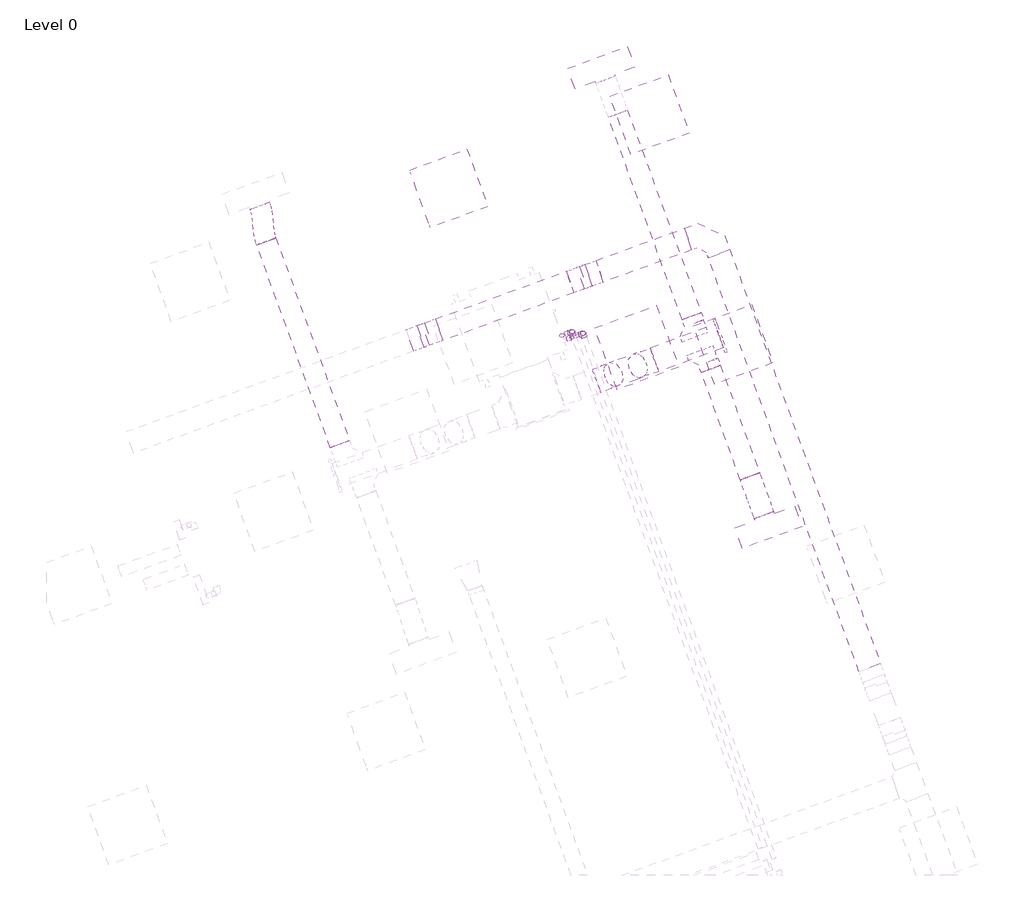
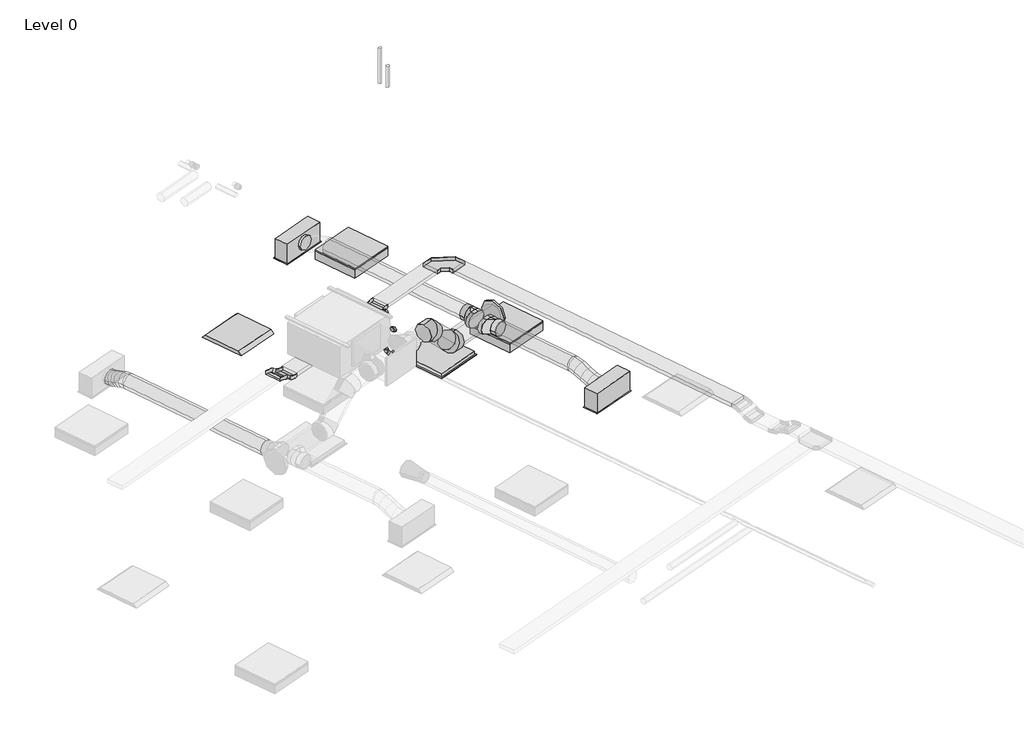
# One storey, part 33 of 34: 7 duct segments, 6 pipe fittings, 6 pipe segments, 5 cable carrier fittings, 5 cable carrier segments, 5 duct fittings, 3 air terminals, 3 light fixtures.
"""IFC4 building model written with IfcOpenShell, lengths in millimetres."""

from ifc_helpers import new_model, si_unit, point, frame, frame_2d, origin, place, context, project, spatial, polyline, circle_curve, ellipse_curve, trimmed, segment, composite_curve, outline, extrude, transform, mapped, element, save
from ifc_brep_helpers import plane_surface, cylinder_surface, advanced_brep
from components import return_grille_rectangular_hosted_standard_7b12617c, supply_diffuser_with_plenum_linear_slot_hosted_2b730595, cable_tray_horizontal_bend_standard_fd552271, cable_tray_vertical_inside_bend_standard_9a66f55b, cable_tray_vertical_outside_bend_standard_4df2047e, dw144_round_blank_end_standard_e3d0b58b, dw144_round_segmented_bend_slip_joint_standard_636bd9c1, dw144_round_shoe_branch_slip_joint1_standard_2_15a2edd8, light_fixture_b730b5ca, troffer_light_2x2_parabolic_2_x2_2_lamp_120v_6a063ff3, elbow_threaded_gmi_standard_b4aa7741, socket_reducing_threaded_gmi_standard_0a4076b8

model = new_model("IFC4")

# Units and contexts
model_context = context("Model", 3, world=origin())
ifc_project = project(units=[si_unit("LENGTHUNIT", "METRE", prefix="MILLI")], contexts=[model_context])

# Site, building, storey
site = spatial("IfcSite", under=ifc_project)
building = spatial("IfcBuilding", under=site)
storey = spatial("IfcBuildingStorey", under=building, Name="Level 0", Elevation=0.0)

# Air terminals
placement = place(None, origin())
return_grille_rectangular_hosted_standard_shape = return_grille_rectangular_hosted_standard_7b12617c(model_context)
element("IfcAirTerminal", 1, ObjectType="Return Grille - Rectangular - Hosted : Standard", at=placement, inside=storey, context=model_context, shape_type="MappedRepresentation", body=[
    mapped(return_grille_rectangular_hosted_standard_shape, transform((59670.7999959, 22099.2481143, 2800.0), x_axis=(0.939692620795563, 0.34202014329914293, 0.0), y_axis=(0.34202014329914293, -0.939692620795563, 0.0), z_axis=(0.0, 0.0, -1.0))),
])
supply_diffuser_with_plenum_linear_slot_hosted_shape = supply_diffuser_with_plenum_linear_slot_hosted_2b730595(model_context)
element("IfcAirTerminal", 2, ObjectType="Supply Diffuser with Plenum - Linear Slot - Hosted : 24\" x 8\"-200 In Inlet  4-Slot", at=placement, inside=storey, context=model_context, shape_type="MappedRepresentation", body=[
    mapped(supply_diffuser_with_plenum_linear_slot_hosted_shape, transform((59322.1555846, 24845.631912, 2800.0), x_axis=(-0.9396926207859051, -0.3420201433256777, 0.0), y_axis=(-0.3420201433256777, 0.9396926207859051, 0.0), z_axis=(0.0, 0.0, -1.0))),
])
element("IfcAirTerminal", 3, ObjectType="Supply Diffuser with Plenum - Linear Slot - Hosted : 24\" x 8\"-200 In Inlet  4-Slot", at=placement, inside=storey, context=model_context, shape_type="MappedRepresentation", body=[
    mapped(supply_diffuser_with_plenum_linear_slot_hosted_shape, transform((60963.8522726, 20335.1073322, 2800.0), x_axis=(0.939692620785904, 0.342020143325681, 0.0), y_axis=(0.342020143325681, -0.939692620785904, 0.0), z_axis=(0.0, 0.0, -1.0))),
])

# Cable carrier fittings
cable_tray_horizontal_bend_standard_shape = cable_tray_horizontal_bend_standard_fd552271(model_context)
element("IfcCableCarrierFitting", 4, ObjectType="Cable Tray Horizontal Bend : Standard", at=placement, inside=storey, context=model_context, shape_type="MappedRepresentation", body=[
    mapped(cable_tray_horizontal_bend_standard_shape, transform((60397.5181523, 23244.3261172, 3248.9627355), x_axis=(-0.3420201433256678, 0.9396926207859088, 0.0), y_axis=(-0.9396926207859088, -0.3420201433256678, 0.0), z_axis=(0.0, 0.0, 1.0))),
])
cable_tray_vertical_inside_bend_standard_shape = cable_tray_vertical_inside_bend_standard_9a66f55b(model_context)
element("IfcCableCarrierFitting", 5, ObjectType="Cable Tray Vertical Inside Bend : Standard", at=placement, inside=storey, context=model_context, shape_type="MappedRepresentation", body=[
    mapped(cable_tray_vertical_inside_bend_standard_shape, transform((59079.7468169, 22764.6965755, 3148.9627355), x_axis=(0.9396926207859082, 0.34202014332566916, 0.0), y_axis=(0.0, 0.0, 1.0), z_axis=(0.34202014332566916, -0.9396926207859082, 0.0))),
])
element("IfcCableCarrierFitting", 6, ObjectType="Cable Tray Vertical Inside Bend : Standard", at=placement, inside=storey, context=model_context, shape_type="MappedRepresentation", body=[
    mapped(cable_tray_vertical_inside_bend_standard_shape, transform((57668.2710843, 22250.9614225, 3148.9627355), x_axis=(0.8137976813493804, 0.2961981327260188, -0.4999999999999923), y_axis=(0.46984631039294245, 0.1710100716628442, 0.8660254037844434), z_axis=(0.34202014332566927, -0.9396926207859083, 0.0))),
])
cable_tray_vertical_outside_bend_standard_shape = cable_tray_vertical_outside_bend_standard_4df2047e(model_context)
element("IfcCableCarrierFitting", 7, ObjectType="Cable Tray Vertical Outside Bend : Standard", at=placement, inside=storey, context=model_context, shape_type="MappedRepresentation", body=[
    mapped(cable_tray_vertical_outside_bend_standard_shape, transform((59242.5063531, 22823.9362021, 3248.9627355), x_axis=(-0.939692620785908, -0.34202014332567, 0.0), y_axis=(0.0, 0.0, -1.0000000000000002), z_axis=(0.34202014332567, -0.939692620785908, 0.0))),
])
element("IfcCableCarrierFitting", 8, ObjectType="Cable Tray Vertical Outside Bend : Standard", at=placement, inside=storey, context=model_context, shape_type="MappedRepresentation", body=[
    mapped(cable_tray_vertical_outside_bend_standard_shape, transform((57505.5115481, 22191.721796, 3248.9627355), x_axis=(-0.8137976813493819, -0.2961981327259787, 0.5000000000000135), y_axis=(-0.46984631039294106, -0.17101007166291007, -0.866025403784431), z_axis=(0.34202014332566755, -0.9396926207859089, 0.0))),
])

# Cable carrier segments
element("IfcCableCarrierSegment", 9, ObjectType="Perforated Cable Tray", at=placement, inside=storey, context=model_context, shape_type="SweptSolid", body=[
    extrude(outline(polyline([(62063.4626623, 18996.1091889), (61852.0318226, 18919.1546567), (60373.0325165, 22982.6718536), (60584.4633562, 23059.6263859), (62063.4626623, 18996.1091889)])), frame((0.0, 0.0, 3223.9627355), z_axis=(0.0, 0.0, 1.0), x_axis=(1.0, 0.0, 0.0)), (0.0, 0.0, 1.0), 50.0),
])
element("IfcCableCarrierSegment", 10, ObjectType="Perforated Cable Tray", at=placement, inside=storey, context=model_context, shape_type="SweptSolid", body=[
    extrude(outline(polyline([(60135.8638887, 23268.811753), (60212.818421, 23057.3809133), (59343.931089, 22741.1317875), (59266.9765567, 22952.5626272), (60135.8638887, 23268.811753)])), frame((0.0, 0.0, 3223.9627355), z_axis=(0.0, 0.0, 1.0), x_axis=(1.0, 0.0, 0.0)), (0.0, 0.0, 1.0), 50.0),
])
element("IfcCableCarrierSegment", 11, ObjectType="Perforated Cable Tray", at=placement, inside=storey, context=model_context, shape_type="SweptSolid", body=[
    extrude(outline(polyline([(0.0, -225.0), (0.0, 0.0), (66.0254038, 0.0), (66.0254037, -225.0), (0.0, -225.0)])), frame((59238.2156691, 22702.6545214, 3193.8184513), z_axis=(-0.46984631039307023, -0.1710100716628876, 0.8660254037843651), x_axis=(-0.8137976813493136, -0.29619813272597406, -0.5000000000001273)), (0.0, 0.0, 1.0), 50.0),
])
element("IfcCableCarrierSegment", 12, ObjectType="Perforated Cable Tray", at=placement, inside=storey, context=model_context, shape_type="SweptSolid", body=[
    extrude(outline(polyline([(58978.322081, 22847.5009901), (59055.2766133, 22636.0701504), (57769.6958202, 22168.157008), (57692.7412879, 22379.5878476), (58978.322081, 22847.5009901)])), frame((0.0, 0.0, 3123.9627355), z_axis=(0.0, 0.0, 1.0), x_axis=(1.0, 0.0, 0.0)), (0.0, 0.0, 1.0), 50.0),
])
element("IfcCableCarrierSegment", 13, ObjectType="Perforated Cable Tray", at=placement, inside=storey, context=model_context, shape_type="SweptSolid", body=[
    extrude(outline(polyline([(0.0, -224.9999999), (0.0, 0.0), (66.0254038, 1e-07), (66.0254038, -224.9999999), (0.0, -224.9999999)])), frame((57640.4880848, 22121.1292383, 3160.8057494), z_axis=(0.4698463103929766, 0.17101007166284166, 0.8660254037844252), x_axis=(-0.8137976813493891, -0.29619813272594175, 0.5000000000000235)), (0.0, 0.0, 1.0), 50.0),
])

# Duct fittings
dw144_round_blank_end_standard_shape = dw144_round_blank_end_standard_e3d0b58b(model_context)
element("IfcDuctFitting", 14, ObjectType="DW144 Round Blank End : Standard", at=placement, inside=storey, context=model_context, shape_type="MappedRepresentation", body=[
    mapped(dw144_round_blank_end_standard_shape, transform((60480.1698786, 22212.391139, 3072.2088531), x_axis=(0.9396926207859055, 0.3420201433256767, 0.0), y_axis=(-0.3420201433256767, 0.9396926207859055, 0.0), z_axis=(0.0, 0.0, 1.0))),
])
dw144_round_segmented_bend_slip_joint_standard_shape = dw144_round_segmented_bend_slip_joint_standard_636bd9c1(model_context)
element("IfcDuctFitting", 15, ObjectType="DW144 Round Segmented Bend - Slip Joint : Standard", at=placement, inside=storey, context=model_context, shape_type="MappedRepresentation", body=[
    mapped(dw144_round_segmented_bend_slip_joint_standard_shape, transform((59747.3782824, 21945.6768101, 3072.2088531), x_axis=(0.6644630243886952, 0.24184476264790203, -0.7071067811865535), y_axis=(0.6644630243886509, 0.2418447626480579, 0.7071067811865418), z_axis=(0.3420201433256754, -0.939692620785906, 0.0))),
])
element("IfcDuctFitting", 16, ObjectType="DW144 Round Segmented Bend - Slip Joint : Standard", at=placement, inside=storey, context=model_context, shape_type="MappedRepresentation", body=[
    mapped(dw144_round_segmented_bend_slip_joint_standard_shape, transform((59373.9762464, 21809.7695836, 3469.575), x_axis=(0.9396926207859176, 0.3420201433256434, 0.0), y_axis=(0.0, 0.0, -1.0), z_axis=(-0.3420201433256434, 0.9396926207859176, 0.0))),
])
dw144_round_shoe_branch_slip_joint1_standard_2_shape = dw144_round_shoe_branch_slip_joint1_standard_2_15a2edd8(model_context)
element("IfcDuctFitting", 17, ObjectType="DW144 Round Shoe Branch - Slip Joint1 : Standard 2", at=placement, inside=storey, context=model_context, shape_type="MappedRepresentation", body=[
    mapped(dw144_round_shoe_branch_slip_joint1_standard_2_shape, transform((60261.1722773, 22265.7047523, 3072.2088531), x_axis=(-0.3420201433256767, 0.9396926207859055, 0.0), y_axis=(0.9396926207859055, 0.3420201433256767, 0.0), z_axis=(0.0, 0.0, -1.0))),
])
element("IfcDuctFitting", 18, ObjectType="DW144 Round Shoe Branch - Slip Joint1 : Standard 2", at=placement, inside=storey, context=model_context, shape_type="MappedRepresentation", body=[
    mapped(dw144_round_shoe_branch_slip_joint1_standard_2_shape, transform((60346.6773131, 22030.7815971, 3072.2088531), x_axis=(0.3420201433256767, -0.9396926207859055, 0.0), y_axis=(0.9396926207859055, 0.3420201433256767, 0.0), z_axis=(0.0, 0.0, 1.0))),
])

# Duct segments
element("IfcDuctSegment", 19, ObjectType="DW144 Segmented Bend / Shoe Branch", at=placement, inside=storey, context=model_context, shape_type="SweptSolid", body=[
    extrude(outline(composite_curve([segment(trimmed(circle_curve(frame_2d((0.0, -125.0)), 125.0), [point((-125.0, -125.0))], [point((0.0, 0.0))], False, "CARTESIAN"), True, "CONTINUOUS"), segment(trimmed(circle_curve(frame_2d((0.0, -125.0)), 125.0), [point((0.0, 0.0))], [point((125.0, -125.0))], False, "CARTESIAN"), True, "CONTINUOUS"), segment(trimmed(circle_curve(frame_2d((0.0, -125.0)), 125.0), [point((125.0, -125.0))], [point((0.0, -250.0))], False, "CARTESIAN"), True, "CONTINUOUS"), segment(trimmed(circle_curve(frame_2d((0.0, -125.0)), 125.0), [point((0.0, -250.0))], [point((-125.0, -125.0))], False, "CARTESIAN"), True, "CONTINUOUS")], self_intersect=False)), frame((59844.6866394, 21981.0941556, 2947.2088531), z_axis=(0.9396926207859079, 0.3420201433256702, 0.0), x_axis=(0.3420201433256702, -0.9396926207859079, 0.0)), (0.0, 0.0, 1.0), 676.267138),
])
element("IfcDuctSegment", 20, ObjectType="DW144 Segmented Bend / Shoe Branch", at=placement, inside=storey, context=model_context, shape_type="SweptSolid", body=[
    extrude(outline(composite_curve([segment(trimmed(circle_curve(frame_2d((0.0, 100.0)), 100.0), [point((100.0, 100.0))], [point((0.0, 0.0))], False, "CARTESIAN"), True, "CONTINUOUS"), segment(trimmed(circle_curve(frame_2d((0.0, 100.0)), 100.0), [point((0.0, 0.0))], [point((-100.0, 100.0))], False, "CARTESIAN"), True, "CONTINUOUS"), segment(trimmed(circle_curve(frame_2d((0.0, 100.0)), 100.0), [point((-100.0, 100.0))], [point((0.0, 200.0))], False, "CARTESIAN"), True, "CONTINUOUS"), segment(trimmed(circle_curve(frame_2d((0.0, 100.0)), 100.0), [point((0.0, 200.0))], [point((100.0, 100.0))], False, "CARTESIAN"), True, "CONTINUOUS")], self_intersect=False)), frame((60209.8692558, 22406.6586454, 3172.2088531), z_axis=(-0.3420201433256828, 0.9396926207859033, 0.0), x_axis=(0.9396926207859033, 0.3420201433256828, 0.0)), (0.0, 0.0, 1.0), 2117.1993191),
])
element("IfcDuctSegment", 21, ObjectType="DW144 Segmented Bend / Shoe Branch", at=placement, inside=storey, context=model_context, shape_type="SweptSolid", body=[
    extrude(outline(composite_curve([segment(trimmed(circle_curve(frame_2d((0.0, -100.0)), 100.0), [point((-99.9999999, -100.0))], [point((0.0, 0.0))], False, "CARTESIAN"), True, "CONTINUOUS"), segment(trimmed(circle_curve(frame_2d((0.0, -100.0)), 100.0), [point((0.0, 0.0))], [point((100.0, -100.0))], False, "CARTESIAN"), True, "CONTINUOUS"), segment(trimmed(circle_curve(frame_2d((0.0, -100.0)), 100.0), [point((100.0, -100.0))], [point((0.0, -200.0))], False, "CARTESIAN"), True, "CONTINUOUS"), segment(trimmed(circle_curve(frame_2d((0.0, -100.0)), 100.0), [point((0.0, -200.0))], [point((-99.9999999, -100.0))], False, "CARTESIAN"), True, "CONTINUOUS")], self_intersect=False)), frame((60782.0007844, 20834.7401896, 2972.2088531), z_axis=(-0.3420201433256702, 0.9396926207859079, 0.0), x_axis=(0.9396926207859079, 0.3420201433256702, 0.0)), (0.0, 0.0, 1.0), 1122.8006809),
])
element("IfcDuctSegment", 22, ObjectType="DW144 Segmented Bend / Shoe Branch", at=placement, inside=storey, context=model_context, shape_type="SweptSolid", body=[
    extrude(outline(composite_curve([segment(trimmed(circle_curve(frame_2d((0.0, -100.0)), 100.0), [point((-100.0, -100.0))], [point((0.0, 0.0))], False, "CARTESIAN"), True, "CONTINUOUS"), segment(trimmed(circle_curve(frame_2d((0.0, -100.0)), 100.0), [point((0.0, 0.0))], [point((99.9999999, -100.0))], False, "CARTESIAN"), True, "CONTINUOUS"), segment(trimmed(circle_curve(frame_2d((0.0, -100.0)), 100.0), [point((99.9999999, -100.0))], [point((0.0, -200.0))], False, "CARTESIAN"), True, "CONTINUOUS"), segment(trimmed(circle_curve(frame_2d((0.0, -100.0)), 100.0), [point((0.0, -200.0))], [point((-100.0, -100.0))], False, "CARTESIAN"), True, "CONTINUOUS")], self_intersect=False)), frame((56758.4236669, 21150.4351859, 2972.2088531), z_axis=(-0.3420201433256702, 0.9396926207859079, 0.0), x_axis=(0.9396926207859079, 0.3420201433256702, 0.0)), (0.0, 0.0, 1.0), 2117.1993191),
])
element("IfcDuctSegment", 23, ObjectType="DW144 Segmented Bend / Shoe Branch", at=placement, inside=storey, context=model_context, shape_type="SweptSolid", body=[
    extrude(outline(composite_curve([segment(trimmed(circle_curve(frame_2d((0.0, -125.0)), 125.0), [point((57.2076922, -236.1408113))], [point((-111.1408114, -182.2076922))], False, "CARTESIAN"), True, "CONTINUOUS"), segment(trimmed(circle_curve(frame_2d((0.0, -125.0)), 125.0), [point((-111.1408114, -182.2076922))], [point((-57.2076923, -13.8591886))], False, "CARTESIAN"), True, "CONTINUOUS"), segment(trimmed(circle_curve(frame_2d((0.0, -125.0)), 125.0), [point((-57.2076923, -13.8591886))], [point((111.1408113, -67.7923077))], False, "CARTESIAN"), True, "CONTINUOUS"), segment(trimmed(circle_curve(frame_2d((0.0, -125.0)), 125.0), [point((111.1408113, -67.7923077))], [point((57.2076922, -236.1408113))], False, "CARTESIAN"), True, "CONTINUOUS")], self_intersect=False)), frame((59678.5708833, 22038.9065459, 3185.884105), z_axis=(-0.6644630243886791, -0.2418447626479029, 0.7071067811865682), x_axis=(0.7473211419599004, -0.21503058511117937, 0.6287073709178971)), (0.0, 0.0, 1.0), 354.8538129),
])
element("IfcDuctSegment", 24, ObjectType="Flex - Round", at=placement, inside=storey, context=model_context, shape_type="AdvancedBrep", body=[
    advanced_brep(
    [(60875.9700465, 20868.9422039, 3072.2088531), (60782.0007844, 20834.7401896, 2972.2088531), (60688.0315224, 20800.5381753, 3072.2088531), (60782.0007844, 20834.7401896, 3172.2088531), (60882.0013398, 20852.3713618, 3072.2088531), (60784.375947, 20828.2144842, 2972.2088531), (60694.0628156, 20783.9673332, 3072.2088531), (60791.6882085, 20808.1242108, 3172.2088531), (61014.3849765, 20488.6503094, 2954.4), (60920.4157144, 20454.4482951, 3054.4), (60826.4464523, 20420.2462807, 2954.4), (60920.4157144, 20454.4482951, 2854.4), (60911.1124161, 20772.389337, 3053.8012198), (60807.0114178, 20766.0240391, 2957.8959008), (60723.173892, 20703.9853083, 3053.8012198), (60827.2748902, 20710.3506062, 3149.7065388), (60945.1775115, 20678.7962567, 3013.3044266), (60838.3259973, 20679.987939, 2920.6689376), (60757.2389873, 20610.392228, 3013.3044266), (60864.0905015, 20609.2005456, 3105.9399155), (60979.2426069, 20585.2031763, 2972.8076333), (60875.1416086, 20578.8378784, 2876.9023143), (60791.3040827, 20516.7991477, 2972.8076333), (60895.405081, 20523.1644455, 3068.7129523), (61008.3536832, 20505.2211515, 2954.4), (60910.7282903, 20481.0642739, 2854.4), (60820.415159, 20436.8171228, 2954.4), (60918.0405519, 20460.9740005, 3054.4)],
    [
        (0, 1, circle_curve(frame((60782.0007844, 20834.7401896, 3072.2088531), z_axis=(-0.34202014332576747, 0.9396926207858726, 0.0), x_axis=(0.9396926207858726, 0.34202014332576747, 0.0)), 100.0)),
        (1, 2, circle_curve(frame((60782.0007844, 20834.7401896, 3072.2088531), z_axis=(-0.34202014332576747, 0.9396926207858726, 0.0), x_axis=(0.9396926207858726, 0.34202014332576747, 0.0)), 100.0)),
        (2, 3, circle_curve(frame((60782.0007844, 20834.7401896, 3072.2088531), z_axis=(-0.34202014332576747, 0.9396926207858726, 0.0), x_axis=(0.9396926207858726, 0.34202014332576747, 0.0)), 100.0)),
        (3, 0, circle_curve(frame((60782.0007844, 20834.7401896, 3072.2088531), z_axis=(-0.34202014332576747, 0.9396926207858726, 0.0), x_axis=(0.9396926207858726, 0.34202014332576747, 0.0)), 100.0)),
        (0, 4),
        (4, 5, ellipse_curve(frame((60788.0320777, 20818.1693475, 3072.2088531), z_axis=(-0.3400825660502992, 0.9343691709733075, 0.10629252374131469), x_axis=(-0.03635418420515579, 0.09988230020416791, -0.9943349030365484)), 100.5697373, 100.0)),
        (5, 1),
        (5, 6, ellipse_curve(frame((60788.0320777, 20818.1693475, 3072.2088531), z_axis=(-0.3400825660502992, 0.9343691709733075, 0.10629252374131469), x_axis=(-0.03635418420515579, 0.09988230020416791, -0.9943349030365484)), 100.5697373, 100.0)),
        (6, 2),
        (6, 7, ellipse_curve(frame((60788.0320777, 20818.1693475, 3072.2088531), z_axis=(-0.3400825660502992, 0.9343691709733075, 0.10629252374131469), x_axis=(-0.03635418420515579, 0.09988230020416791, -0.9943349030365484)), 100.5697373, 100.0)),
        (7, 3),
        (7, 4, ellipse_curve(frame((60788.0320777, 20818.1693475, 3072.2088531), z_axis=(-0.3400825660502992, 0.9343691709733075, 0.10629252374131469), x_axis=(-0.03635418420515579, 0.09988230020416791, -0.9943349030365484)), 100.5697373, 100.0)),
        (8, 9, circle_curve(frame((60920.4157144, 20454.4482951, 2954.4), z_axis=(0.34202014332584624, -0.9396926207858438, 0.0), x_axis=(0.9396926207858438, 0.34202014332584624, 0.0)), 100.0)),
        (9, 10, circle_curve(frame((60920.4157144, 20454.4482951, 2954.4), z_axis=(0.34202014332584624, -0.9396926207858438, 0.0), x_axis=(0.9396926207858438, 0.34202014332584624, 0.0)), 100.0)),
        (10, 11, circle_curve(frame((60920.4157144, 20454.4482951, 2954.4), z_axis=(0.34202014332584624, -0.9396926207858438, 0.0), x_axis=(0.9396926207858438, 0.34202014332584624, 0.0)), 100.0)),
        (11, 8, circle_curve(frame((60920.4157144, 20454.4482951, 2954.4), z_axis=(0.34202014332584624, -0.9396926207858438, 0.0), x_axis=(0.9396926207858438, 0.34202014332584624, 0.0)), 100.0)),
        (4, 12),
        (12, 13, ellipse_curve(frame((60817.143154, 20738.1873227, 3053.8012198), z_axis=(-0.3267864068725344, 0.8978382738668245, 0.295122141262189), x_axis=(-0.10093771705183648, 0.2773240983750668, -0.9554595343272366)), 100.3761181, 100.0)),
        (13, 5),
        (13, 14, ellipse_curve(frame((60817.143154, 20738.1873227, 3053.8012198), z_axis=(-0.3267864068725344, 0.8978382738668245, 0.295122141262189), x_axis=(-0.10093771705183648, 0.2773240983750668, -0.9554595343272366)), 100.3761181, 100.0)),
        (14, 6),
        (14, 15, ellipse_curve(frame((60817.143154, 20738.1873227, 3053.8012198), z_axis=(-0.3267864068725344, 0.8978382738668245, 0.295122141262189), x_axis=(-0.10093771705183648, 0.2773240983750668, -0.9554595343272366)), 100.3761181, 100.0)),
        (15, 7),
        (15, 12, ellipse_curve(frame((60817.143154, 20738.1873227, 3053.8012198), z_axis=(-0.3267864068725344, 0.8978382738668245, 0.295122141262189), x_axis=(-0.10093771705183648, 0.2773240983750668, -0.9554595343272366)), 100.3761181, 100.0)),
        (12, 16),
        (16, 17, circle_curve(frame((60851.2082494, 20644.5942423, 3013.3044266), z_axis=(-0.31683203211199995, 0.8704888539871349, 0.3766518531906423), x_axis=(0.9396926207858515, 0.3420201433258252, 0.0)), 100.0)),
        (17, 13),
        (17, 18, circle_curve(frame((60851.2082494, 20644.5942423, 3013.3044266), z_axis=(-0.31683203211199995, 0.8704888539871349, 0.3766518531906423), x_axis=(0.9396926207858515, 0.3420201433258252, 0.0)), 100.0)),
        (18, 14),
        (18, 19, circle_curve(frame((60851.2082494, 20644.5942423, 3013.3044266), z_axis=(-0.31683203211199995, 0.8704888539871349, 0.3766518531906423), x_axis=(0.9396926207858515, 0.3420201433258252, 0.0)), 100.0)),
        (19, 15),
        (19, 16, circle_curve(frame((60851.2082494, 20644.5942423, 3013.3044266), z_axis=(-0.31683203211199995, 0.8704888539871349, 0.3766518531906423), x_axis=(0.9396926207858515, 0.3420201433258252, 0.0)), 100.0)),
        (16, 20),
        (20, 21, ellipse_curve(frame((60885.2733448, 20551.001162, 2972.8076333), z_axis=(-0.32678640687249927, 0.8978382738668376, 0.29512214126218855), x_axis=(0.10093771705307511, -0.2773240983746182, 0.9554595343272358)), 100.3761181, 100.0)),
        (21, 17),
        (21, 22, ellipse_curve(frame((60885.2733448, 20551.001162, 2972.8076333), z_axis=(-0.32678640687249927, 0.8978382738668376, 0.29512214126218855), x_axis=(0.10093771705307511, -0.2773240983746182, 0.9554595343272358)), 100.3761181, 100.0)),
        (22, 18),
        (22, 23, ellipse_curve(frame((60885.2733448, 20551.001162, 2972.8076333), z_axis=(-0.32678640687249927, 0.8978382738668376, 0.29512214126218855), x_axis=(0.10093771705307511, -0.2773240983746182, 0.9554595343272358)), 100.3761181, 100.0)),
        (23, 19),
        (23, 20, ellipse_curve(frame((60885.2733448, 20551.001162, 2972.8076333), z_axis=(-0.32678640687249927, 0.8978382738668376, 0.29512214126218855), x_axis=(0.10093771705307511, -0.2773240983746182, 0.9554595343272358)), 100.3761181, 100.0)),
        (20, 24),
        (24, 25, ellipse_curve(frame((60914.3844211, 20471.0191372, 2954.4), z_axis=(-0.34008256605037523, 0.9343691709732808, 0.10629252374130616), x_axis=(0.03635418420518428, -0.09988230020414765, 0.9943349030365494)), 100.5697373, 100.0)),
        (25, 21),
        (25, 26, ellipse_curve(frame((60914.3844211, 20471.0191372, 2954.4), z_axis=(-0.34008256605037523, 0.9343691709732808, 0.10629252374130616), x_axis=(0.03635418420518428, -0.09988230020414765, 0.9943349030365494)), 100.5697373, 100.0)),
        (26, 22),
        (26, 27, ellipse_curve(frame((60914.3844211, 20471.0191372, 2954.4), z_axis=(-0.34008256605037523, 0.9343691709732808, 0.10629252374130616), x_axis=(0.03635418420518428, -0.09988230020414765, 0.9943349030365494)), 100.5697373, 100.0)),
        (27, 23),
        (27, 24, ellipse_curve(frame((60914.3844211, 20471.0191372, 2954.4), z_axis=(-0.34008256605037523, 0.9343691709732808, 0.10629252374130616), x_axis=(0.03635418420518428, -0.09988230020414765, 0.9943349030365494)), 100.5697373, 100.0)),
        (24, 8),
        (11, 25),
        (10, 26),
        (9, 27),
    ],
    [
        plane_surface(frame((60782.0007844, 20834.7401896, 2972.2088531), z_axis=(-0.3420201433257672, 0.9396926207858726, 0.0), x_axis=(0.9396926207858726, 0.3420201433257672, 0.0))),
        cylinder_surface(frame((60782.0007844, 20834.7401896, 3072.2088531), z_axis=(-0.34202014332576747, 0.9396926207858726, 0.0), x_axis=(0.9396926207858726, 0.34202014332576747, 0.0)), 100.0),
        plane_surface(frame((60920.4157144, 20454.4482951, 2854.4), z_axis=(0.3420201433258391, -0.9396926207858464, 0.0), x_axis=(0.9396926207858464, 0.3420201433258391, 0.0))),
        cylinder_surface(frame((60788.0320777, 20818.1693475, 3072.2088531), z_axis=(-0.33429178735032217, 0.9184591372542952, 0.21138073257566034), x_axis=(0.9396926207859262, 0.34202014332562, 0.0)), 100.0),
        cylinder_surface(frame((60817.143154, 20738.1873227, 3053.8012198), z_axis=(-0.31683203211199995, 0.8704888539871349, 0.3766518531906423), x_axis=(0.9396926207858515, 0.3420201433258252, 0.0)), 100.0),
        cylinder_surface(frame((60851.2082494, 20644.5942423, 3013.3044266), z_axis=(-0.3168320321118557, 0.870488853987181, 0.37665185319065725), x_axis=(0.9396926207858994, 0.3420201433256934, 0.0)), 100.0),
        cylinder_surface(frame((60885.2733448, 20551.001162, 2972.8076333), z_axis=(-0.33429178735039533, 0.9184591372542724, 0.21138073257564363), x_axis=(0.9396926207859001, 0.3420201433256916, 0.0)), 100.0),
        cylinder_surface(frame((60914.3844211, 20471.0191372, 2954.4), z_axis=(-0.34202014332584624, 0.9396926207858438, 0.0), x_axis=(0.9396926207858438, 0.34202014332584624, 0.0)), 100.0),
    ],
    [
        (0, [[1, 2, 3, 4]]),
        (1, [[-1, 5, 6, 7]]),
        (1, [[-2, -7, 8, 9]]),
        (1, [[-3, -9, 10, 11]]),
        (1, [[-4, -11, 12, -5]]),
        (2, [[13, 14, 15, 16]]),
        (3, [[-6, 17, 18, 19]]),
        (3, [[-8, -19, 20, 21]]),
        (3, [[-10, -21, 22, 23]]),
        (3, [[-12, -23, 24, -17]]),
        (4, [[-18, 25, 26, 27]]),
        (4, [[-20, -27, 28, 29]]),
        (4, [[-22, -29, 30, 31]]),
        (4, [[-24, -31, 32, -25]]),
        (5, [[-26, 33, 34, 35]]),
        (5, [[-28, -35, 36, 37]]),
        (5, [[-30, -37, 38, 39]]),
        (5, [[-32, -39, 40, -33]]),
        (6, [[-34, 41, 42, 43]]),
        (6, [[-36, -43, 44, 45]]),
        (6, [[-38, -45, 46, 47]]),
        (6, [[-40, -47, 48, -41]]),
        (7, [[-42, 49, -16, 50]]),
        (7, [[-44, -50, -15, 51]]),
        (7, [[-46, -51, -14, 52]]),
        (7, [[-48, -52, -13, -49]]),
    ],
),
])
element("IfcDuctSegment", 25, ObjectType="Flex - Round", at=placement, inside=storey, context=model_context, shape_type="AdvancedBrep", body=[
    advanced_brep(
    [(55940.3295902, 23105.7497485, 3072.2088531), (56034.2988523, 23139.9517628, 2972.2088531), (56128.2681143, 23174.1537771, 3072.2088531), (56034.2988523, 23139.9517628, 3172.2088531), (55932.7420836, 23126.5962516, 3072.2088531), (56032.3134808, 23145.406526, 2972.2088531), (56124.5132802, 23184.4700991, 3072.2088531), (56024.9418829, 23165.6598248, 3172.2088531), (55877.7350427, 23456.8147833, 2954.4), (55971.7043047, 23491.0167976, 3054.4), (56065.6735668, 23525.218812, 2954.4), (55971.7043047, 23491.0167976, 2854.4), (55917.2205605, 23191.1924734, 3057.7687719), (56023.6671691, 23181.3900482, 2964.1649619), (56113.6953982, 23229.4910871, 3062.1446929), (56007.2487896, 23239.2935124, 3155.7485029), (55907.0631461, 23267.3080025, 3026.0560812), (56015.8469396, 23239.9916648, 2939.7492485), (56105.1369571, 23293.6245615, 3035.4241924), (55996.3531635, 23320.9408992, 3121.7310251), (55900.8662, 23337.3439989, 2991.1846607), (56009.6499935, 23310.0276613, 2904.877828), (56098.9400109, 23363.660558, 3000.5527719), (55990.1562174, 23390.9768957, 3086.8596046), (55892.3077588, 23401.4774733, 2964.4641602), (55998.7543674, 23391.6750481, 2870.8603502), (56088.7825965, 23439.776087, 2968.8400813), (55982.3359879, 23449.5785123, 3062.4438913), (55881.4898768, 23446.4984613, 2954.4), (55981.0612741, 23465.3087357, 2854.4), (56073.2610734, 23504.3723089, 2954.4), (55973.6896762, 23485.5620345, 3054.4)],
    [
        (0, 1, circle_curve(frame((56034.2988523, 23139.9517628, 3072.2088531), z_axis=(0.3420201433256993, -0.9396926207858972, 0.0), x_axis=(-0.9396926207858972, -0.3420201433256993, 0.0)), 100.0)),
        (1, 2, circle_curve(frame((56034.2988523, 23139.9517628, 3072.2088531), z_axis=(0.3420201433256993, -0.9396926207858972, 0.0), x_axis=(-0.9396926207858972, -0.3420201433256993, 0.0)), 100.0)),
        (2, 3, circle_curve(frame((56034.2988523, 23139.9517628, 3072.2088531), z_axis=(0.3420201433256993, -0.9396926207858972, 0.0), x_axis=(-0.9396926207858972, -0.3420201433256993, 0.0)), 100.0)),
        (3, 0, circle_curve(frame((56034.2988523, 23139.9517628, 3072.2088531), z_axis=(0.3420201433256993, -0.9396926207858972, 0.0), x_axis=(-0.9396926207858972, -0.3420201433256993, 0.0)), 100.0)),
        (0, 4),
        (4, 5, ellipse_curve(frame((56028.6276819, 23155.5331754, 3072.2088531), z_axis=(0.28725807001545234, -0.951860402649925, 0.10697932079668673), x_axis=(0.4715564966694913, 0.04331948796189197, -0.8807711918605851)), 100.7349377, 100.0)),
        (5, 1),
        (5, 6, ellipse_curve(frame((56028.6276819, 23155.5331754, 3072.2088531), z_axis=(0.28725807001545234, -0.951860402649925, 0.10697932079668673), x_axis=(0.4715564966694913, 0.04331948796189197, -0.8807711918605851)), 100.7349377, 100.0)),
        (6, 2),
        (6, 7, ellipse_curve(frame((56028.6276819, 23155.5331754, 3072.2088531), z_axis=(0.28725807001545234, -0.951860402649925, 0.10697932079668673), x_axis=(0.4715564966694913, 0.04331948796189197, -0.8807711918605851)), 100.7349377, 100.0)),
        (7, 3),
        (7, 4, ellipse_curve(frame((56028.6276819, 23155.5331754, 3072.2088531), z_axis=(0.28725807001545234, -0.951860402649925, 0.10697932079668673), x_axis=(0.4715564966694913, 0.04331948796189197, -0.8807711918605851)), 100.7349377, 100.0)),
        (8, 9, circle_curve(frame((55971.7043047, 23491.0167976, 2954.4), z_axis=(-0.34202014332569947, 0.9396926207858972, 0.0), x_axis=(-0.9396926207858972, -0.34202014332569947, 0.0)), 100.0)),
        (9, 10, circle_curve(frame((55971.7043047, 23491.0167976, 2954.4), z_axis=(-0.34202014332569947, 0.9396926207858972, 0.0), x_axis=(-0.9396926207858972, -0.34202014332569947, 0.0)), 100.0)),
        (10, 11, circle_curve(frame((55971.7043047, 23491.0167976, 2954.4), z_axis=(-0.34202014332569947, 0.9396926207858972, 0.0), x_axis=(-0.9396926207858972, -0.34202014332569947, 0.0)), 100.0)),
        (11, 8, circle_curve(frame((55971.7043047, 23491.0167976, 2954.4), z_axis=(-0.34202014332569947, 0.9396926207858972, 0.0), x_axis=(-0.9396926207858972, -0.34202014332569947, 0.0)), 100.0)),
        (4, 12),
        (12, 13, ellipse_curve(frame((56015.4579794, 23210.3417803, 3059.9567324), z_axis=(0.17618862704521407, -0.9379774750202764, 0.2985897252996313), x_axis=(0.5232975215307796, -0.16766949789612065, -0.8354918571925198)), 100.5173143, 100.0)),
        (13, 5),
        (13, 14, ellipse_curve(frame((56015.4579794, 23210.3417803, 3059.9567324), z_axis=(0.17618862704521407, -0.9379774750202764, 0.2985897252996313), x_axis=(0.5232975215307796, -0.16766949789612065, -0.8354918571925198)), 100.5173143, 100.0)),
        (14, 6),
        (14, 15, ellipse_curve(frame((56015.4579794, 23210.3417803, 3059.9567324), z_axis=(0.17618862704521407, -0.9379774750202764, 0.2985897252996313), x_axis=(0.5232975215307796, -0.16766949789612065, -0.8354918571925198)), 100.5173143, 100.0)),
        (15, 7),
        (15, 12, ellipse_curve(frame((56015.4579794, 23210.3417803, 3059.9567324), z_axis=(0.17618862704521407, -0.9379774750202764, 0.2985897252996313), x_axis=(0.5232975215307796, -0.16766949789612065, -0.8354918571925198)), 100.5173143, 100.0)),
        (12, 16),
        (16, 17, ellipse_curve(frame((56006.1000516, 23280.466282, 3030.7401368), z_axis=(0.10068966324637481, -0.904990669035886, 0.41334426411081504), x_axis=(0.5429036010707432, -0.29817225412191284, -0.7850789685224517)), 100.0796062, 100.0)),
        (17, 13),
        (17, 18, ellipse_curve(frame((56006.1000516, 23280.466282, 3030.7401368), z_axis=(0.10068966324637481, -0.904990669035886, 0.41334426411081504), x_axis=(0.5429036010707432, -0.29817225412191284, -0.7850789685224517)), 100.0796062, 100.0)),
        (18, 14),
        (18, 19, ellipse_curve(frame((56006.1000516, 23280.466282, 3030.7401368), z_axis=(0.10068966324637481, -0.904990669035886, 0.41334426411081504), x_axis=(0.5429036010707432, -0.29817225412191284, -0.7850789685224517)), 100.0796062, 100.0)),
        (19, 15),
        (19, 16, ellipse_curve(frame((56006.1000516, 23280.466282, 3030.7401368), z_axis=(0.10068966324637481, -0.904990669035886, 0.41334426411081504), x_axis=(0.5429036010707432, -0.29817225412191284, -0.7850789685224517)), 100.0796062, 100.0)),
        (16, 20),
        (20, 21, ellipse_curve(frame((55999.9031055, 23350.5022785, 2995.8687163), z_axis=(0.10068966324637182, -0.9049906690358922, 0.4133442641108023), x_axis=(-0.5429036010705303, 0.2981722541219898, 0.7850789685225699)), 100.0796062, 100.0)),
        (21, 17),
        (21, 22, ellipse_curve(frame((55999.9031055, 23350.5022785, 2995.8687163), z_axis=(0.10068966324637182, -0.9049906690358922, 0.4133442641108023), x_axis=(-0.5429036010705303, 0.2981722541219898, 0.7850789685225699)), 100.0796062, 100.0)),
        (22, 18),
        (22, 23, ellipse_curve(frame((55999.9031055, 23350.5022785, 2995.8687163), z_axis=(0.10068966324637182, -0.9049906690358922, 0.4133442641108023), x_axis=(-0.5429036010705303, 0.2981722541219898, 0.7850789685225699)), 100.0796062, 100.0)),
        (23, 19),
        (23, 20, ellipse_curve(frame((55999.9031055, 23350.5022785, 2995.8687163), z_axis=(0.10068966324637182, -0.9049906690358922, 0.4133442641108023), x_axis=(-0.5429036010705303, 0.2981722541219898, 0.7850789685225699)), 100.0796062, 100.0)),
        (20, 24),
        (24, 25, ellipse_curve(frame((55990.5451776, 23420.6267802, 2966.6521207), z_axis=(0.17618862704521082, -0.9379774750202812, 0.29858972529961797), x_axis=(-0.5232975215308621, 0.16766949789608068, 0.8354918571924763)), 100.5173143, 100.0)),
        (25, 21),
        (25, 26, ellipse_curve(frame((55990.5451776, 23420.6267802, 2966.6521207), z_axis=(0.17618862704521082, -0.9379774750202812, 0.29858972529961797), x_axis=(-0.5232975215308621, 0.16766949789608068, 0.8354918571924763)), 100.5173143, 100.0)),
        (26, 22),
        (26, 27, ellipse_curve(frame((55990.5451776, 23420.6267802, 2966.6521207), z_axis=(0.17618862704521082, -0.9379774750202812, 0.29858972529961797), x_axis=(-0.5232975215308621, 0.16766949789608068, 0.8354918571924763)), 100.5173143, 100.0)),
        (27, 23),
        (27, 24, ellipse_curve(frame((55990.5451776, 23420.6267802, 2966.6521207), z_axis=(0.17618862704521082, -0.9379774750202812, 0.29858972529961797), x_axis=(-0.5232975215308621, 0.16766949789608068, 0.8354918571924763)), 100.5173143, 100.0)),
        (24, 28),
        (28, 29, ellipse_curve(frame((55977.3754751, 23475.4353851, 2954.4), z_axis=(0.28725807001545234, -0.9518604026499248, 0.10697932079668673), x_axis=(-0.47155649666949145, -0.04331948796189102, 0.880771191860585)), 100.7349377, 100.0)),
        (29, 25),
        (29, 30, ellipse_curve(frame((55977.3754751, 23475.4353851, 2954.4), z_axis=(0.28725807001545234, -0.9518604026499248, 0.10697932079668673), x_axis=(-0.47155649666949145, -0.04331948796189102, 0.880771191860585)), 100.7349377, 100.0)),
        (30, 26),
        (30, 31, ellipse_curve(frame((55977.3754751, 23475.4353851, 2954.4), z_axis=(0.28725807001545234, -0.9518604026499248, 0.10697932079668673), x_axis=(-0.47155649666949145, -0.04331948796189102, 0.880771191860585)), 100.7349377, 100.0)),
        (31, 27),
        (31, 28, ellipse_curve(frame((55977.3754751, 23475.4353851, 2954.4), z_axis=(0.28725807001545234, -0.9518604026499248, 0.10697932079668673), x_axis=(-0.47155649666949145, -0.04331948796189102, 0.880771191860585)), 100.7349377, 100.0)),
        (28, 8),
        (11, 29),
        (10, 30),
        (9, 31),
    ],
    [
        plane_surface(frame((56034.2988523, 23139.9517628, 3172.2088531), z_axis=(0.34202014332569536, -0.9396926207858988, 0.0), x_axis=(0.9396926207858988, 0.34202014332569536, 0.0))),
        cylinder_surface(frame((56034.2988523, 23139.9517628, 3072.2088531), z_axis=(0.3420201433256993, -0.9396926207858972, 0.0), x_axis=(-0.9396926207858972, -0.3420201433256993, 0.0)), 100.0),
        plane_surface(frame((55971.7043047, 23491.0167976, 3054.4), z_axis=(-0.34202014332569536, 0.9396926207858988, 0.0), x_axis=(0.9396926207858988, 0.34202014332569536, 0.0))),
        cylinder_surface(frame((56028.6276819, 23155.5331754, 3072.2088531), z_axis=(0.22830446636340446, -0.9501390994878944, 0.21239765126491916), x_axis=(-0.9716478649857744, -0.23613301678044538, -0.011900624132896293)), 100.0),
        cylinder_surface(frame((56015.4579794, 23210.3417803, 3059.9567324), z_axis=(0.12225927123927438, -0.9161612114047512, 0.3817084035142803), x_axis=(-0.988118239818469, -0.14844948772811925, -0.03981323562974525)), 100.0),
        cylinder_surface(frame((56006.1000516, 23280.466282, 3030.7401368), z_axis=(0.0789598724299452, -0.8923804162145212, 0.44432255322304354), x_axis=(-0.9918227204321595, -0.11515391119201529, -0.05502061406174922)), 100.0),
        cylinder_surface(frame((55999.9031055, 23350.5022785, 2995.8687163), z_axis=(0.12225927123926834, -0.9161612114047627, 0.3817084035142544), x_axis=(-0.98811823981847, -0.1484494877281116, -0.039813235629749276)), 100.0),
        cylinder_surface(frame((55990.5451776, 23420.6267802, 2966.6521207), z_axis=(0.22830446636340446, -0.9501390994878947, 0.2123976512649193), x_axis=(-0.9716478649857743, -0.23613301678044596, -0.011900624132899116)), 100.0),
        cylinder_surface(frame((55977.3754751, 23475.4353851, 2954.4), z_axis=(0.34202014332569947, -0.9396926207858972, 0.0), x_axis=(-0.9396926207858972, -0.34202014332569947, 0.0)), 100.0),
    ],
    [
        (0, [[1, 2, 3, 4]]),
        (1, [[-1, 5, 6, 7]]),
        (1, [[-2, -7, 8, 9]]),
        (1, [[-3, -9, 10, 11]]),
        (1, [[-4, -11, 12, -5]]),
        (2, [[13, 14, 15, 16]]),
        (3, [[-6, 17, 18, 19]]),
        (3, [[-8, -19, 20, 21]]),
        (3, [[-10, -21, 22, 23]]),
        (3, [[-12, -23, 24, -17]]),
        (4, [[-18, 25, 26, 27]]),
        (4, [[-20, -27, 28, 29]]),
        (4, [[-22, -29, 30, 31]]),
        (4, [[-24, -31, 32, -25]]),
        (5, [[-26, 33, 34, 35]]),
        (5, [[-28, -35, 36, 37]]),
        (5, [[-30, -37, 38, 39]]),
        (5, [[-32, -39, 40, -33]]),
        (6, [[-34, 41, 42, 43]]),
        (6, [[-36, -43, 44, 45]]),
        (6, [[-38, -45, 46, 47]]),
        (6, [[-40, -47, 48, -41]]),
        (7, [[-42, 49, 50, 51]]),
        (7, [[-44, -51, 52, 53]]),
        (7, [[-46, -53, 54, 55]]),
        (7, [[-48, -55, 56, -49]]),
        (8, [[-50, 57, -16, 58]]),
        (8, [[-52, -58, -15, 59]]),
        (8, [[-54, -59, -14, 60]]),
        (8, [[-56, -60, -13, -57]]),
    ],
),
])

# Light fixtures
light_fixture_shape = light_fixture_b730b5ca(model_context)
element("IfcLightFixture", 26, ObjectType="ELEKTRA EM Recessed Lighting Fixture : 24\" x 24\" - 230", at=placement, inside=storey, context=model_context, shape_type="MappedRepresentation", body=[
    mapped(light_fixture_shape, transform((57645.6248068, 23277.6646168, 2800.0), x_axis=(0.9396926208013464, 0.34202014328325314, 0.0), y_axis=(0.34202014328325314, -0.9396926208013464, 0.0), z_axis=(0.0, 0.0, -1.0))),
])
troffer_light_2x2_parabolic_2_x2_2_lamp_120v_shape = troffer_light_2x2_parabolic_2_x2_2_lamp_120v_6a063ff3(model_context)
element("IfcLightFixture", 27, ObjectType="Troffer Light - 2x2 Parabolic : 2'x2'(2 Lamp) - 120V", at=placement, inside=storey, context=model_context, shape_type="MappedRepresentation", body=[
    mapped(troffer_light_2x2_parabolic_2_x2_2_lamp_120v_shape, transform((59900.8870967, 24098.5129607, 2800.0), x_axis=(0.9396926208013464, 0.34202014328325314, 0.0), y_axis=(0.34202014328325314, -0.9396926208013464, 0.0), z_axis=(0.0, 0.0, -1.0))),
])
element("IfcLightFixture", 28, ObjectType="Troffer Light - 2x2 Parabolic : 2'x2'(2 Lamp) - 120V", at=placement, inside=storey, context=model_context, shape_type="MappedRepresentation", body=[
    mapped(troffer_light_2x2_parabolic_2_x2_2_lamp_120v_shape, transform((60721.7354406, 21843.2506708, 2800.0), x_axis=(0.9396926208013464, 0.34202014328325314, 0.0), y_axis=(0.34202014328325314, -0.9396926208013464, 0.0), z_axis=(0.0, 0.0, -1.0))),
])

# Pipe fittings
elbow_threaded_gmi_standard_shape = elbow_threaded_gmi_standard_b4aa7741(model_context)
element("IfcPipeFitting", 29, ObjectType="Elbow - Threaded - GMI : Standard", at=placement, inside=storey, context=model_context, shape_type="MappedRepresentation", body=[
    mapped(elbow_threaded_gmi_standard_shape, transform((59037.2475079, 22254.3390863, 3000.0), x_axis=(-0.3420201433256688, 0.9396926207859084, 0.0), y_axis=(0.0, 0.0, 1.0), z_axis=(0.9396926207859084, 0.3420201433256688, 0.0))),
])
element("IfcPipeFitting", 30, ObjectType="Elbow - Threaded - GMI : Standard", at=placement, inside=storey, context=model_context, shape_type="MappedRepresentation", body=[
    mapped(elbow_threaded_gmi_standard_shape, transform((59037.2475079, 22254.3390863, 3596.575), x_axis=(0.9396926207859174, 0.3420201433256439, 0.0), y_axis=(0.0, 0.0, -1.0), z_axis=(-0.3420201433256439, 0.9396926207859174, 0.0))),
])
element("IfcPipeFitting", 31, ObjectType="Elbow - Threaded - GMI : Standard", at=placement, inside=storey, context=model_context, shape_type="MappedRepresentation", body=[
    mapped(elbow_threaded_gmi_standard_shape, transform((59142.7353246, 22238.6732807, 2925.0), x_axis=(-0.34202014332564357, 0.9396926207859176, 0.0), y_axis=(0.0, 0.0, 1.0000000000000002), z_axis=(0.9396926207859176, 0.34202014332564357, 0.0))),
])
element("IfcPipeFitting", 32, ObjectType="Elbow - Threaded - GMI : Standard", at=placement, inside=storey, context=model_context, shape_type="MappedRepresentation", body=[
    mapped(elbow_threaded_gmi_standard_shape, transform((59142.7353246, 22238.6732807, 3317.175), x_axis=(0.9396926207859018, 0.342020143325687, 0.0), y_axis=(0.0, 0.0, -1.0), z_axis=(-0.342020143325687, 0.9396926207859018, 0.0))),
])
socket_reducing_threaded_gmi_standard_shape = socket_reducing_threaded_gmi_standard_0a4076b8(model_context)
element("IfcPipeFitting", 33, ObjectType="Socket Reducing - Threaded - GMI : Standard", at=placement, inside=storey, context=model_context, shape_type="MappedRepresentation", body=[
    mapped(socket_reducing_threaded_gmi_standard_shape, transform((58976.7003958, 22177.9268039, 3317.175), x_axis=(0.9396926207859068, 0.34202014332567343, 0.0), y_axis=(-0.34202014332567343, 0.9396926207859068, 0.0), z_axis=(0.0, 0.0, 1.0))),
])
element("IfcPipeFitting", 34, ObjectType="Socket Reducing - Threaded - GMI : Standard", at=placement, inside=storey, context=model_context, shape_type="MappedRepresentation", body=[
    mapped(socket_reducing_threaded_gmi_standard_shape, transform((58959.3257725, 22225.6631891, 3596.575), x_axis=(0.9396926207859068, 0.34202014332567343, 0.0), y_axis=(-0.34202014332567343, 0.9396926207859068, 0.0), z_axis=(0.0, 0.0, 1.0))),
])

# Pipe segments
element("IfcPipeSegment", 35, ObjectType="Carbon Steel - Threaded", at=placement, inside=storey, context=model_context, shape_type="SweptSolid", body=[
    extrude(outline(composite_curve([segment(trimmed(circle_curve(frame_2d((58935.8118339, 22217.4195202)), 21.45), [point((58914.3618339, 22217.4195202))], [point((58935.8118339, 22238.8695202))], False, "CARTESIAN"), True, "CONTINUOUS"), segment(trimmed(circle_curve(frame_2d((58935.8118339, 22217.4195202)), 21.45), [point((58935.8118339, 22238.8695202))], [point((58957.2618339, 22217.4195202))], False, "CARTESIAN"), True, "CONTINUOUS"), segment(trimmed(circle_curve(frame_2d((58935.8118339, 22217.4195202)), 21.45), [point((58957.2618339, 22217.4195202))], [point((58935.8118339, 22195.9695202))], False, "CARTESIAN"), True, "CONTINUOUS"), segment(trimmed(circle_curve(frame_2d((58935.8118339, 22217.4195202)), 21.45), [point((58935.8118339, 22195.9695202))], [point((58914.3618339, 22217.4195202))], False, "CARTESIAN"), True, "CONTINUOUS")], self_intersect=False)), frame((0.0, 0.0, 6945.0), z_axis=(0.0, 0.0, 1.0), x_axis=(1.0, 0.0, 0.0)), (0.0, 0.0, 1.0), 506.575),
])
element("IfcPipeSegment", 36, ObjectType="Carbon Steel - Threaded", at=placement, inside=storey, context=model_context, shape_type="SweptSolid", body=[
    extrude(outline(composite_curve([segment(trimmed(circle_curve(frame_2d((59032.4639452, 22198.537781)), 21.45), [point((59011.0139452, 22198.537781))], [point((59032.4639452, 22219.987781))], False, "CARTESIAN"), True, "CONTINUOUS"), segment(trimmed(circle_curve(frame_2d((59032.4639452, 22198.537781)), 21.45), [point((59032.4639452, 22219.987781))], [point((59053.9139452, 22198.537781))], False, "CARTESIAN"), True, "CONTINUOUS"), segment(trimmed(circle_curve(frame_2d((59032.4639452, 22198.537781)), 21.45), [point((59053.9139452, 22198.537781))], [point((59032.4639452, 22177.087781))], False, "CARTESIAN"), True, "CONTINUOUS"), segment(trimmed(circle_curve(frame_2d((59032.4639452, 22198.537781)), 21.45), [point((59032.4639452, 22177.087781))], [point((59011.0139452, 22198.537781))], False, "CARTESIAN"), True, "CONTINUOUS")], self_intersect=False)), frame((0.0, 0.0, 6870.0), z_axis=(0.0, 0.0, 1.0), x_axis=(1.0, 0.0, 0.0)), (0.0, 0.0, 1.0), 302.175),
])
element("IfcPipeSegment", 37, ObjectType="Carbon Steel - Threaded", at=placement, inside=storey, context=model_context, shape_type="SweptSolid", body=[
    extrude(outline(composite_curve([segment(trimmed(circle_curve(frame_2d((0.0, 21.45)), 21.45), [point((21.45, 21.45))], [point((0.0, 0.0))], False, "CARTESIAN"), True, "CONTINUOUS"), segment(trimmed(circle_curve(frame_2d((0.0, 21.45)), 21.45), [point((0.0, 0.0))], [point((-21.45, 21.45))], False, "CARTESIAN"), True, "CONTINUOUS"), segment(trimmed(circle_curve(frame_2d((0.0, 21.45)), 21.45), [point((-21.45, 21.45))], [point((0.0, 42.9))], False, "CARTESIAN"), True, "CONTINUOUS"), segment(trimmed(circle_curve(frame_2d((0.0, 21.45)), 21.45), [point((0.0, 42.9))], [point((21.45, 21.45))], False, "CARTESIAN"), True, "CONTINUOUS")], self_intersect=False)), frame((59025.564412, 22195.7118514, 3338.625), z_axis=(0.9396926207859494, 0.3420201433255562, 0.0), x_axis=(0.3420201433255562, -0.9396926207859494, 0.0)), (0.0, 0.0, 1.0), 79.7983161),
])
element("IfcPipeSegment", 38, ObjectType="Carbon Steel - Threaded", at=placement, inside=storey, context=model_context, shape_type="SweptSolid", body=[
    extrude(outline(composite_curve([segment(trimmed(circle_curve(frame_2d((0.0, -21.45)), 21.45), [point((-21.45, -21.45))], [point((0.0, 0.0))], False, "CARTESIAN"), True, "CONTINUOUS"), segment(trimmed(circle_curve(frame_2d((0.0, -21.45)), 21.45), [point((0.0, 0.0))], [point((21.45, -21.45))], False, "CARTESIAN"), True, "CONTINUOUS"), segment(trimmed(circle_curve(frame_2d((0.0, -21.45)), 21.45), [point((21.45, -21.45))], [point((0.0, -42.9))], False, "CARTESIAN"), True, "CONTINUOUS"), segment(trimmed(circle_curve(frame_2d((0.0, -21.45)), 21.45), [point((0.0, -42.9))], [point((-21.45, -21.45))], False, "CARTESIAN"), True, "CONTINUOUS")], self_intersect=False)), frame((58995.0624842, 22238.6702884, 3575.125), z_axis=(0.9396926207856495, 0.34202014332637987, 0.0), x_axis=(0.34202014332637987, -0.9396926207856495, 0.0)), (0.0, 0.0, 1.0), 13.9697857),
])
element("IfcPipeSegment", 39, ObjectType="Carbon Steel - Threaded", at=placement, inside=storey, context=model_context, shape_type="SweptSolid", body=[
    extrude(outline(composite_curve([segment(trimmed(circle_curve(frame_2d((59037.2475079, 22254.3390863)), 21.45), [point((59015.7975079, 22254.3390863))], [point((59037.2475079, 22275.7890863))], False, "CARTESIAN"), True, "CONTINUOUS"), segment(trimmed(circle_curve(frame_2d((59037.2475079, 22254.3390863)), 21.45), [point((59037.2475079, 22275.7890863))], [point((59058.6975079, 22254.3390863))], False, "CARTESIAN"), True, "CONTINUOUS"), segment(trimmed(circle_curve(frame_2d((59037.2475079, 22254.3390863)), 21.45), [point((59058.6975079, 22254.3390863))], [point((59037.2475079, 22232.8890863))], False, "CARTESIAN"), True, "CONTINUOUS"), segment(trimmed(circle_curve(frame_2d((59037.2475079, 22254.3390863)), 21.45), [point((59037.2475079, 22232.8890863))], [point((59015.7975079, 22254.3390863))], False, "CARTESIAN"), True, "CONTINUOUS")], self_intersect=False)), frame((0.0, 0.0, 3045.0), z_axis=(0.0, 0.0, 1.0), x_axis=(1.0, 0.0, 0.0)), (0.0, 0.0, 1.0), 506.575),
])
element("IfcPipeSegment", 40, ObjectType="Carbon Steel - Threaded", at=placement, inside=storey, context=model_context, shape_type="SweptSolid", body=[
    extrude(outline(composite_curve([segment(trimmed(circle_curve(frame_2d((59142.7353246, 22238.6732807)), 21.45), [point((59121.2853246, 22238.6732807))], [point((59142.7353246, 22260.1232807))], False, "CARTESIAN"), True, "CONTINUOUS"), segment(trimmed(circle_curve(frame_2d((59142.7353246, 22238.6732807)), 21.45), [point((59142.7353246, 22260.1232807))], [point((59164.1853246, 22238.6732807))], False, "CARTESIAN"), True, "CONTINUOUS"), segment(trimmed(circle_curve(frame_2d((59142.7353246, 22238.6732807)), 21.45), [point((59164.1853246, 22238.6732807))], [point((59142.7353246, 22217.2232807))], False, "CARTESIAN"), True, "CONTINUOUS"), segment(trimmed(circle_curve(frame_2d((59142.7353246, 22238.6732807)), 21.45), [point((59142.7353246, 22217.2232807))], [point((59121.2853246, 22238.6732807))], False, "CARTESIAN"), True, "CONTINUOUS")], self_intersect=False)), frame((0.0, 0.0, 2970.0), z_axis=(0.0, 0.0, 1.0), x_axis=(1.0, 0.0, 0.0)), (0.0, 0.0, 1.0), 302.175),
])

save(model, "model.ifc")
